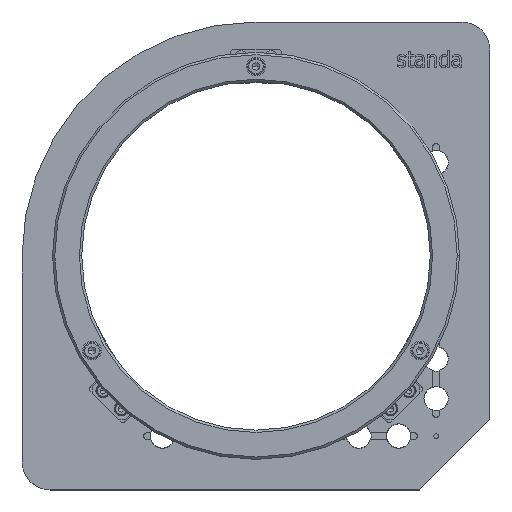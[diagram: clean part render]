
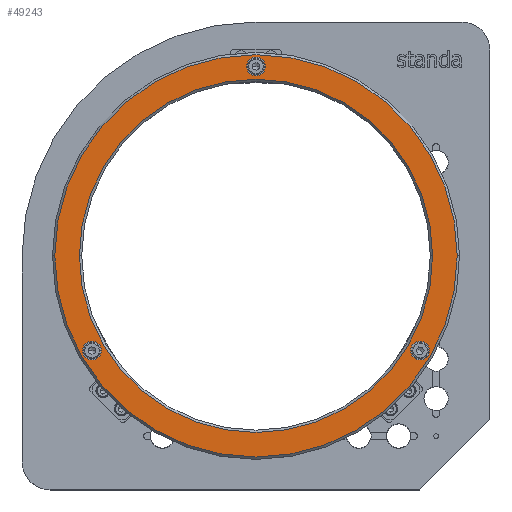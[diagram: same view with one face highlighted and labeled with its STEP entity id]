
A CAD part, top view. The second image highlights one B-rep face of the part: STEP entity #49243.
In plain terms, the highlighted planar face has unit normal (0, 0, 1).
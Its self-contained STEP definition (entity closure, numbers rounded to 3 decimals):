
#15341=CARTESIAN_POINT('',(74.148,-40.5,51.4));
#15342=VERTEX_POINT('',#15341);
#15351=CARTESIAN_POINT('',(66.148,-40.5,51.4));
#15352=VERTEX_POINT('',#15351);
#15353=CARTESIAN_POINT('',(70.148,-40.5,51.4));
#15354=DIRECTION('',(0.0,0.0,-1.0));
#15355=DIRECTION('',(1.0,0.0,0.0));
#15356=AXIS2_PLACEMENT_3D('',#15353,#15354,#15355);
#15357=CIRCLE('',#15356,4.0);
#15358=EDGE_CURVE('',#15352,#15342,#15357,.T.);
#15467=CARTESIAN_POINT('',(4.,81.,51.4));
#15468=VERTEX_POINT('',#15467);
#15477=CARTESIAN_POINT('',(-4.,81.,51.4));
#15478=VERTEX_POINT('',#15477);
#15479=CARTESIAN_POINT('',(0.,81.,51.4));
#15480=DIRECTION('',(0.0,0.0,-1.0));
#15481=DIRECTION('',(1.0,0.0,0.0));
#15482=AXIS2_PLACEMENT_3D('',#15479,#15480,#15481);
#15483=CIRCLE('',#15482,4.0);
#15484=EDGE_CURVE('',#15478,#15468,#15483,.T.);
#15593=CARTESIAN_POINT('',(-66.148,-40.5,51.4));
#15594=VERTEX_POINT('',#15593);
#15603=CARTESIAN_POINT('',(-74.148,-40.5,51.4));
#15604=VERTEX_POINT('',#15603);
#15605=CARTESIAN_POINT('',(-70.148,-40.5,51.4));
#15606=DIRECTION('',(0.0,0.0,-1.0));
#15607=DIRECTION('',(1.0,0.0,0.0));
#15608=AXIS2_PLACEMENT_3D('',#15605,#15606,#15607);
#15609=CIRCLE('',#15608,4.0);
#15610=EDGE_CURVE('',#15604,#15594,#15609,.T.);
#15635=CARTESIAN_POINT('',(86.,0.,51.4));
#15636=VERTEX_POINT('',#15635);
#15645=CARTESIAN_POINT('',(-86.,0.,51.4));
#15646=VERTEX_POINT('',#15645);
#15647=CARTESIAN_POINT('',(0.,0.,51.4));
#15648=DIRECTION('',(0.0,0.0,-1.0));
#15649=DIRECTION('',(1.0,0.0,0.0));
#15650=AXIS2_PLACEMENT_3D('',#15647,#15648,#15649);
#15651=CIRCLE('',#15650,86.);
#15652=EDGE_CURVE('',#15636,#15646,#15651,.T.);
#15719=CARTESIAN_POINT('',(75.5,0.,51.4));
#15720=VERTEX_POINT('',#15719);
#15728=CARTESIAN_POINT('',(-75.5,0.,51.4));
#15729=VERTEX_POINT('',#15728);
#15736=CARTESIAN_POINT('',(0.,0.,51.4));
#15737=DIRECTION('',(0.0,0.0,1.0));
#15738=DIRECTION('',(1.0,0.0,0.0));
#15739=AXIS2_PLACEMENT_3D('',#15736,#15737,#15738);
#15740=CIRCLE('',#15739,75.5);
#15741=EDGE_CURVE('',#15729,#15720,#15740,.T.);
#49176=CARTESIAN_POINT('',(0.,0.,51.4));
#49177=DIRECTION('',(0.0,0.0,1.0));
#49178=DIRECTION('',(1.0,0.0,0.0));
#49179=AXIS2_PLACEMENT_3D('',#49176,#49177,#49178);
#49180=CIRCLE('',#49179,75.5);
#49181=EDGE_CURVE('',#15720,#15729,#49180,.T.);
#49194=CARTESIAN_POINT('',(-74.5,0.,51.4));
#49195=DIRECTION('',(0.0,0.0,1.0));
#49196=DIRECTION('',(0.0,-1.0,0.0));
#49197=AXIS2_PLACEMENT_3D('',#49194,#49195,#49196);
#49198=PLANE('',#49197);
#49199=CARTESIAN_POINT('',(0.,0.,51.4));
#49200=DIRECTION('',(0.0,0.0,-1.0));
#49201=DIRECTION('',(1.0,0.0,0.0));
#49202=AXIS2_PLACEMENT_3D('',#49199,#49200,#49201);
#49203=CIRCLE('',#49202,86.);
#49204=EDGE_CURVE('',#15646,#15636,#49203,.T.);
#49205=ORIENTED_EDGE('',*,*,#49204,.F.);
#49206=ORIENTED_EDGE('',*,*,#15652,.F.);
#49207=EDGE_LOOP('',(#49205,#49206));
#49208=FACE_OUTER_BOUND('',#49207,.T.);
#49209=CARTESIAN_POINT('',(-70.148,-40.5,51.4));
#49210=DIRECTION('',(0.0,0.0,-1.0));
#49211=DIRECTION('',(1.0,0.0,0.0));
#49212=AXIS2_PLACEMENT_3D('',#49209,#49210,#49211);
#49213=CIRCLE('',#49212,4.0);
#49214=EDGE_CURVE('',#15594,#15604,#49213,.T.);
#49215=ORIENTED_EDGE('',*,*,#49214,.T.);
#49216=ORIENTED_EDGE('',*,*,#15610,.T.);
#49217=EDGE_LOOP('',(#49215,#49216));
#49218=FACE_BOUND('',#49217,.T.);
#49219=CARTESIAN_POINT('',(0.,81.,51.4));
#49220=DIRECTION('',(0.0,0.0,-1.0));
#49221=DIRECTION('',(1.0,0.0,0.0));
#49222=AXIS2_PLACEMENT_3D('',#49219,#49220,#49221);
#49223=CIRCLE('',#49222,4.0);
#49224=EDGE_CURVE('',#15468,#15478,#49223,.T.);
#49225=ORIENTED_EDGE('',*,*,#49224,.T.);
#49226=ORIENTED_EDGE('',*,*,#15484,.T.);
#49227=EDGE_LOOP('',(#49225,#49226));
#49228=FACE_BOUND('',#49227,.T.);
#49229=CARTESIAN_POINT('',(70.148,-40.5,51.4));
#49230=DIRECTION('',(0.0,0.0,-1.0));
#49231=DIRECTION('',(1.0,0.0,0.0));
#49232=AXIS2_PLACEMENT_3D('',#49229,#49230,#49231);
#49233=CIRCLE('',#49232,4.0);
#49234=EDGE_CURVE('',#15342,#15352,#49233,.T.);
#49235=ORIENTED_EDGE('',*,*,#49234,.T.);
#49236=ORIENTED_EDGE('',*,*,#15358,.T.);
#49237=EDGE_LOOP('',(#49235,#49236));
#49238=FACE_BOUND('',#49237,.T.);
#49239=ORIENTED_EDGE('',*,*,#15741,.F.);
#49240=ORIENTED_EDGE('',*,*,#49181,.F.);
#49241=EDGE_LOOP('',(#49239,#49240));
#49242=FACE_BOUND('',#49241,.T.);
#49243=ADVANCED_FACE('',(#49208,#49218,#49228,#49238,#49242),#49198,.T.);
